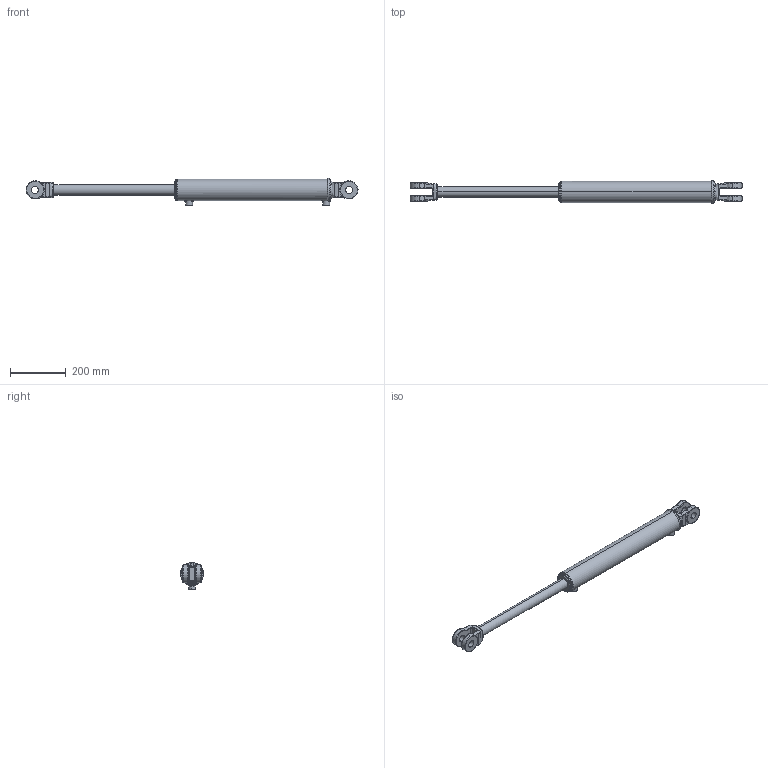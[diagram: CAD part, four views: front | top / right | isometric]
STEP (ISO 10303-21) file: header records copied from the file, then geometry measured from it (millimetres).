
FILE_DESCRIPTION (( 'STEP AP203' ), '1' );
FILE_NAME ('CL-CL250150x457(18) extended.STEP', '2014-11-21T02:26:35', ( '' ), ( '' ), 'SwSTEP 2.0', 'SolidWorks 2014', '' );
FILE_SCHEMA (( 'CONFIG_CONTROL_DESIGN' ));
Length unit declared in the file: millimetre
Products named in the file (5): SPARE 6_18-xx; CL-CL250150x457(18) extended; CL-CL250150x457 (18) body; 2.5 inch ext circlip; CL-CL250150x457(18) BODY
Assembly tree (4 placements, depth 3):
  CL-CL250150x457(18) extended
    CL-CL250150x457(18) BODY
      CL-CL250150x457 (18) body
      2.5 inch ext circlip
    SPARE 6_18-xx
Bounding box: 1186.39 x 82.18 x 97.2 mm (x, y, z)
Volume: 3390230.1 mm3; surface area: 294939.9 mm2
Topology: 3 solids, 3 shells, 210 faces, 512 edges, 315 vertices
Faces by surface type: cylinder 91, bspline 59, plane 37, torus 15, cone 8
Entity records: 11387 total; most frequent: CARTESIAN_POINT 6222, ORIENTED_EDGE 1016, DIRECTION 943, EDGE_CURVE 508, AXIS2_PLACEMENT_3D 394, VERTEX_POINT 315, CIRCLE 235, EDGE_LOOP 233
